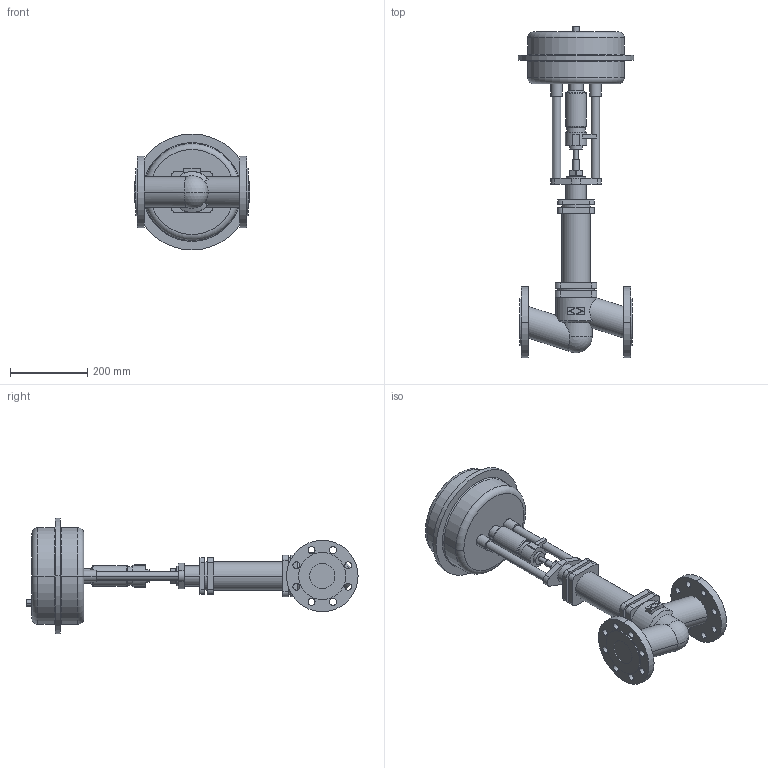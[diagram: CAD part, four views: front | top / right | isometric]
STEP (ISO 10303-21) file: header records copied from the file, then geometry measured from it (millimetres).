
FILE_DESCRIPTION(('OneSpaceDesigner STEP Export'),'2;1');
FILE_NAME('c000002089.stp','2005-12-12T11:51:19',(''),(''),'OneSpace Designer STEP processor for AP203 (Solid Model)','OneSpace Designer 13.20A 18-Aug-2005 (C) CoCreate Software GmbH','');
FILE_SCHEMA(('CONFIG_CONTROL_DESIGN'));
Length unit declared in the file: millimetre
Products named in the file (1): 1
Bounding box: 300 x 859.6 x 300 mm (x, y, z)
Volume: 11761071.8 mm3; surface area: 645750.9 mm2
Topology: 1 solids, 1 shells, 234 faces, 583 edges, 381 vertices
Faces by surface type: cylinder 120, plane 90, torus 16, cone 6, sphere 2
Entity records: 6647 total; most frequent: CARTESIAN_POINT 1329, ORIENTED_EDGE 1162, DIRECTION 989, EDGE_CURVE 581, VERTEX_POINT 381, AXIS2_PLACEMENT_3D 356, EDGE_LOOP 302, VECTOR 277
